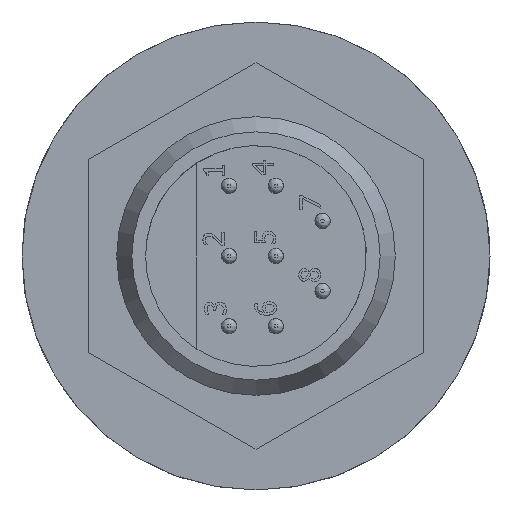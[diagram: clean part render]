
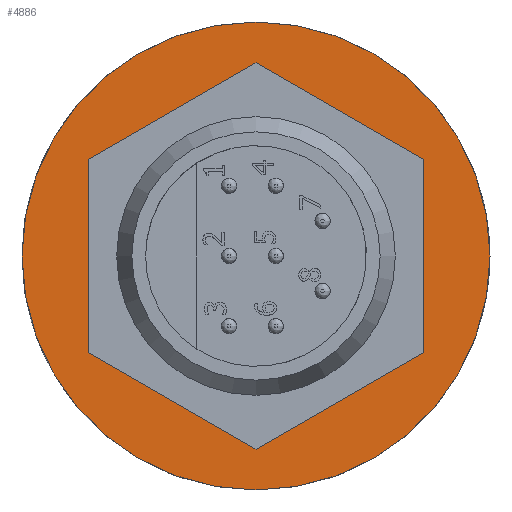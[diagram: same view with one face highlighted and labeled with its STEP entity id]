
A CAD part, left-side view. The second image highlights one B-rep face of the part: STEP entity #4886.
In plain terms, the highlighted planar face has unit normal (-1, 0, 0).
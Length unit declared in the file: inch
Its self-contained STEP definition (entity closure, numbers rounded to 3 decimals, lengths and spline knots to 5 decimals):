
#85=FACE_BOUND('',#850,.T.);
#157=CIRCLE('',#5116,0.7874);
#538=FACE_OUTER_BOUND('',#849,.T.);
#849=EDGE_LOOP('',(#4178));
#850=EDGE_LOOP('',(#4179,#4180,#4181,#4182,#4183,#4184));
#1416=LINE('',#8994,#1790);
#1419=LINE('',#9000,#1793);
#1422=LINE('',#9006,#1796);
#1425=LINE('',#9012,#1799);
#1429=LINE('',#9019,#1803);
#1431=LINE('',#9022,#1805);
#1790=VECTOR('',#5760,0.3937);
#1793=VECTOR('',#5765,0.3937);
#1796=VECTOR('',#5770,0.3937);
#1799=VECTOR('',#5775,0.3937);
#1803=VECTOR('',#5781,0.3937);
#1805=VECTOR('',#5785,0.3937);
#2205=VERTEX_POINT('',#8991);
#2206=VERTEX_POINT('',#8993);
#2208=VERTEX_POINT('',#8999);
#2210=VERTEX_POINT('',#9005);
#2212=VERTEX_POINT('',#9011);
#2214=VERTEX_POINT('',#9017);
#2255=VERTEX_POINT('',#9372);
#2839=EDGE_CURVE('',#2206,#2205,#1416,.T.);
#2842=EDGE_CURVE('',#2208,#2206,#1419,.T.);
#2845=EDGE_CURVE('',#2210,#2208,#1422,.T.);
#2848=EDGE_CURVE('',#2212,#2210,#1425,.T.);
#2852=EDGE_CURVE('',#2205,#2214,#1429,.T.);
#2854=EDGE_CURVE('',#2214,#2212,#1431,.T.);
#2905=EDGE_CURVE('',#2255,#2255,#157,.T.);
#4178=ORIENTED_EDGE('',*,*,#2905,.T.);
#4179=ORIENTED_EDGE('',*,*,#2839,.T.);
#4180=ORIENTED_EDGE('',*,*,#2852,.T.);
#4181=ORIENTED_EDGE('',*,*,#2854,.T.);
#4182=ORIENTED_EDGE('',*,*,#2848,.T.);
#4183=ORIENTED_EDGE('',*,*,#2845,.T.);
#4184=ORIENTED_EDGE('',*,*,#2842,.T.);
#4367=PLANE('',#5115);
#4886=ADVANCED_FACE('',(#538,#85),#4367,.T.);
#5115=AXIS2_PLACEMENT_3D('',#9371,#5919,#5920);
#5116=AXIS2_PLACEMENT_3D('',#9373,#5921,#5922);
#5760=DIRECTION('',(0.,-0.866,0.5));
#5765=DIRECTION('',(0.,0.,1.));
#5770=DIRECTION('',(0.,0.866,0.5));
#5775=DIRECTION('',(0.,0.866,-0.5));
#5781=DIRECTION('',(0.,-0.866,-0.5));
#5785=DIRECTION('',(0.,0.,-1.));
#5919=DIRECTION('center_axis',(-1.,0.,0.));
#5920=DIRECTION('ref_axis',(0.,0.,1.));
#5921=DIRECTION('center_axis',(-1.,0.,0.));
#5922=DIRECTION('ref_axis',(0.,1.,0.));
#8991=CARTESIAN_POINT('',(0.,0.,0.65009));
#8993=CARTESIAN_POINT('',(0.,0.56299,0.32504));
#8994=CARTESIAN_POINT('',(0.,0.28839,0.48359));
#8999=CARTESIAN_POINT('',(0.,0.56299,-0.32504));
#9000=CARTESIAN_POINT('',(0.,0.56299,0.16252));
#9005=CARTESIAN_POINT('',(0.,0.,-0.65009));
#9006=CARTESIAN_POINT('',(0.,0.56988,-0.32107));
#9011=CARTESIAN_POINT('',(0.,-0.56299,-0.32504));
#9012=CARTESIAN_POINT('',(0.,0.00689,-0.65407));
#9017=CARTESIAN_POINT('',(0.,-0.56299,0.32504));
#9019=CARTESIAN_POINT('',(0.,-0.27461,0.49154));
#9022=CARTESIAN_POINT('',(0.,-0.56299,-0.16252));
#9371=CARTESIAN_POINT('Origin',(0.,0.3937,0.));
#9372=CARTESIAN_POINT('',(0.,0.7874,0.));
#9373=CARTESIAN_POINT('Origin',(0.,0.,
0.));
